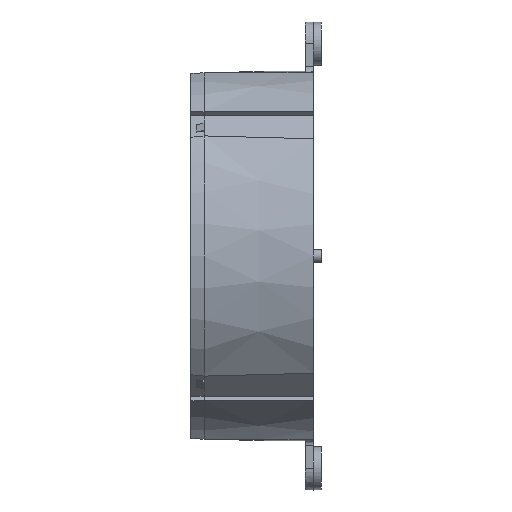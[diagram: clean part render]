
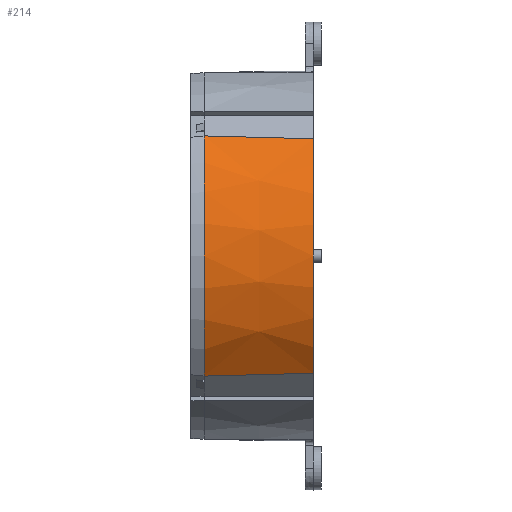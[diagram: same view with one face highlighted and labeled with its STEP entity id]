
A CAD part, left-side view. The second image highlights one B-rep face of the part: STEP entity #214.
In plain terms, the highlighted conical face has half-angle 1 degrees and reference radius 35 mm.
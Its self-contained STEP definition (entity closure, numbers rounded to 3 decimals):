
#214=ADVANCED_FACE('',(#721),#722,.T.);
#721=FACE_OUTER_BOUND('',#1997,.T.);
#722=CONICAL_SURFACE('',#1998,35.0,0.017);
#1997=EDGE_LOOP('',(#5165,#5166,#5167,#5168));
#1998=AXIS2_PLACEMENT_3D('',#5169,#5170,#5171);
#5165=ORIENTED_EDGE('',*,*,#7561,.T.);
#5166=ORIENTED_EDGE('',*,*,#7654,.F.);
#5167=ORIENTED_EDGE('',*,*,#7631,.F.);
#5168=ORIENTED_EDGE('',*,*,#7655,.T.);
#5169=CARTESIAN_POINT('',(0.,22.317,0.));
#5170=DIRECTION('',(0.,1.0,0.));
#5171=DIRECTION('',(-1.0,0.,0.));
#7561=EDGE_CURVE('',#8908,#8906,#8909,.T.);
#7631=EDGE_CURVE('',#9025,#9026,#9027,.T.);
#7654=EDGE_CURVE('',#9026,#8906,#9062,.T.);
#7655=EDGE_CURVE('',#9025,#8908,#9063,.T.);
#8906=VERTEX_POINT('',#13214);
#8908=VERTEX_POINT('',#13217);
#8909=CIRCLE('',#13218,34.602);
#9025=VERTEX_POINT('',#14054);
#9026=VERTEX_POINT('',#14055);
#9027=CIRCLE('',#14056,34.956);
#9062=B_SPLINE_CURVE_WITH_KNOTS('',3,(#14138,#14139,#14140,#14141),.UNSPECIFIED.,.F.,.F.,(4,4),(0.,0.02),.UNSPECIFIED.);
#9063=B_SPLINE_CURVE_WITH_KNOTS('',3,(#14142,#14143,#14144,#14145),.UNSPECIFIED.,.F.,.F.,(4,4),(0.001,0.021),.UNSPECIFIED.);
#13214=CARTESIAN_POINT('',(-26.855,-0.5,21.82));
#13217=CARTESIAN_POINT('',(-26.855,-0.5,-21.82));
#13218=AXIS2_PLACEMENT_3D('',#15454,#15455,#15456);
#14054=CARTESIAN_POINT('',(-26.881,19.817,-22.347));
#14055=CARTESIAN_POINT('',(-26.881,19.817,22.347));
#14056=AXIS2_PLACEMENT_3D('',#15543,#15544,#15545);
#14138=CARTESIAN_POINT('',(-26.881,19.817,22.347));
#14139=CARTESIAN_POINT('',(-26.873,13.045,22.172));
#14140=CARTESIAN_POINT('',(-26.864,6.272,21.996));
#14141=CARTESIAN_POINT('',(-26.855,-0.5,21.82));
#14142=CARTESIAN_POINT('',(-26.881,19.817,-22.347));
#14143=CARTESIAN_POINT('',(-26.873,13.045,-22.172));
#14144=CARTESIAN_POINT('',(-26.864,6.272,-21.996));
#14145=CARTESIAN_POINT('',(-26.855,-0.5,-21.82));
#15454=CARTESIAN_POINT('',(0.,-0.5,0.));
#15455=DIRECTION('',(0.0,1.0,0.0));
#15456=DIRECTION('',(0.,0.0,1.0));
#15543=CARTESIAN_POINT('',(0.,19.817,0.));
#15544=DIRECTION('',(0.0,1.0,0.0));
#15545=DIRECTION('',(-0.769,0.0,-0.639));
